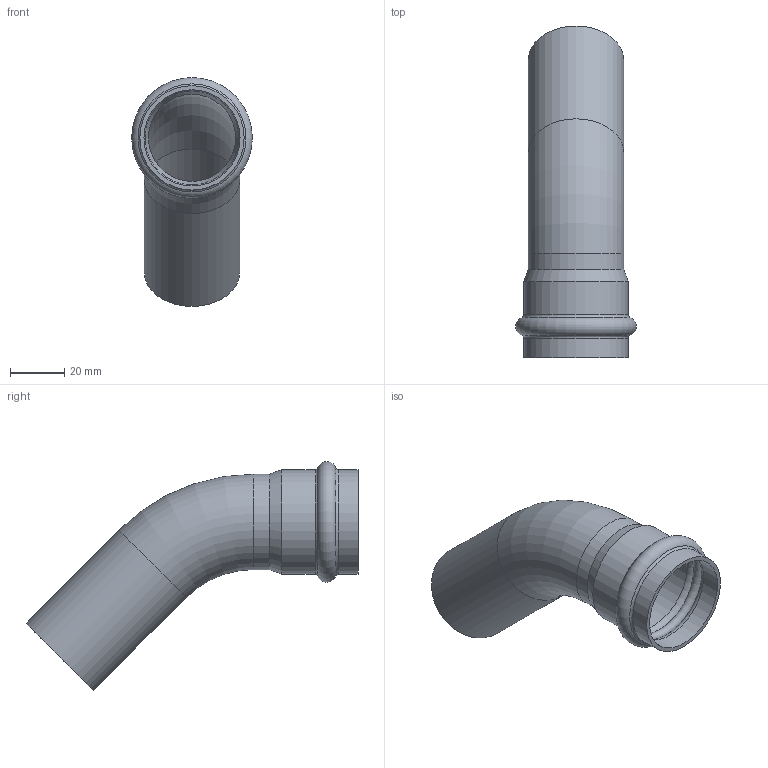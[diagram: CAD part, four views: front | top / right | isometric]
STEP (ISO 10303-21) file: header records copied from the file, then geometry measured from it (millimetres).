
FILE_DESCRIPTION(('STEP AP203'), '1');
FILE_NAME('覆.302661.013.000 捘 - VTi.958.I.003535', '', ('UNSPECIFIED'), ('UNSPECIFIED'), 'C3D Converter', 'C3D Toolkit', '');
FILE_SCHEMA(('CONFIG_CONTROL_DESIGN'));
Length unit declared in the file: millimetre
Products named in the file (1): ВР.302661.013.000 СБ
Bounding box: 44.28 x 121.87 x 84.01 mm (x, y, z)
Volume: 22419.3 mm3; surface area: 29147.7 mm2
Topology: 1 solids, 1 shells, 21 faces, 44 edges, 25 vertices
Faces by surface type: torus 9, cylinder 8, plane 2, cone 2
Full cylindrical faces by diameter (mm): 32 x2, 35 x2, 35.3 x2, 38.3 x2
Entity records: 508 total; most frequent: DIRECTION 94, CARTESIAN_POINT 72, ORIENTED_EDGE 50, AXIS2_PLACEMENT_3D 47, EDGE_LOOP 42, FACE_OUTER_BOUND 30, EDGE_CURVE 25, VERTEX_POINT 25
